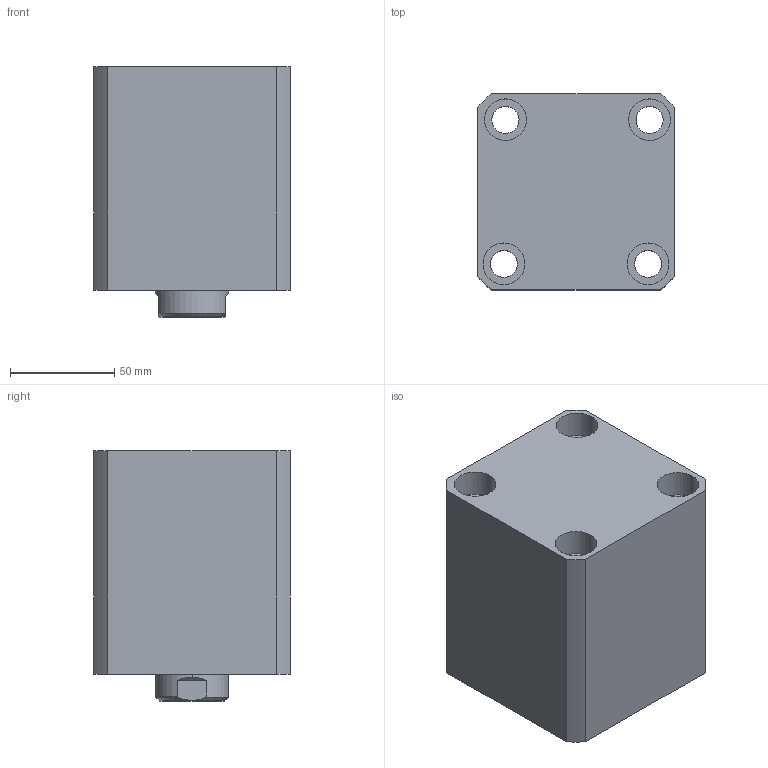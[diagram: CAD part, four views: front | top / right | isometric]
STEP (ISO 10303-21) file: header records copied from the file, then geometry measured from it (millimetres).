
FILE_DESCRIPTION (( 'STEP AP214' ), '1' );
FILE_NAME ('chtb-sdma63x40w_asm.STEP', '2018-05-18T09:21:34', ( 'Windows' ), ( 'Microsoft' ), 'SwSTEP 2.0', 'SolidWorks 2015', '' );
FILE_SCHEMA (( 'AUTOMOTIVE_DESIGN' ));
Length unit declared in the file: millimetre
Products named in the file (4): CHTB-SDMA63X40NBT; CHTB63X40NHSG; CHTB-63QG; chtb-sdma63x40w_asm
Assembly tree (3 placements, depth 2):
  chtb-sdma63x40w_asm
    CHTB-63QG
    CHTB63X40NHSG
    CHTB-SDMA63X40NBT
Bounding box: 94 x 94 x 120 mm (x, y, z)
Volume: 775008.2 mm3; surface area: 137121.7 mm2
Topology: 3 solids, 3 shells, 165 faces, 472 edges, 321 vertices
Faces by surface type: cylinder 107, plane 31, bspline 12, cone 8, torus 7
Entity records: 17727 total; most frequent: CARTESIAN_POINT 13576, ORIENTED_EDGE 932, DIRECTION 716, EDGE_CURVE 466, VERTEX_POINT 321, AXIS2_PLACEMENT_3D 288, EDGE_LOOP 197, ADVANCED_FACE 165
